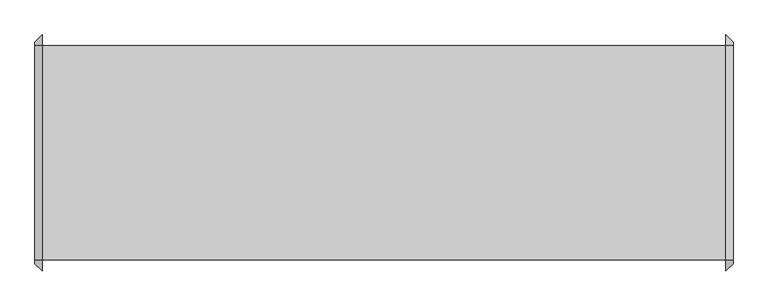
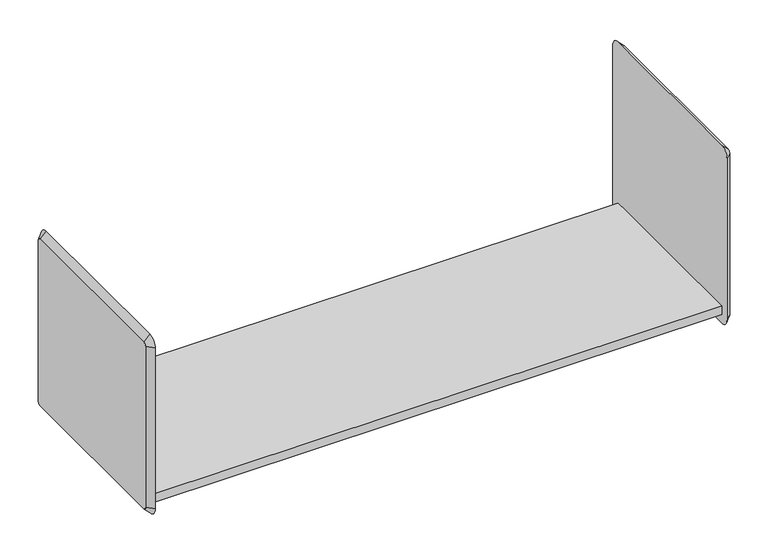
"""IFC4 building model written with IfcOpenShell, lengths in millimetres: furniture geometry, HermanMiller_ActionOffice_A3210_B-StyleShelf : 15-1/2H 16D 48W."""

from ifc_helpers import new_model, si_unit, frame, origin, place, context, project, spatial, polyline, circle_curve, outline, extrude, source, transform, mapped, element, save
from ifc_brep_helpers import plane_surface, revolved_surface, advanced_brep


def furniture_e0694ae7(model_context):
    return source(origin(), model_context, "Body", "SolidModel", [
        extrude(outline(polyline([(472.9579955, 200.025), (472.9579955, 196.85), (-720.8420045, 196.85), (-720.8420045, 200.025), (472.9579955, 200.025)])), frame((0.0, 0.0, 1686.3753713), z_axis=(0.0, 0.0, 1.0), x_axis=(1.0, 0.0, 0.0)), (0.0, 0.0, 1.0), 15.9097687),
        extrude(outline(polyline([(-174.625, 1705.46014), (200.025, 1705.46014), (200.025, 1702.28514), (-171.45, 1702.28514), (-171.45, 1686.3753713), (-174.625, 1686.3753713), (-174.625, 1705.46014)])), frame((-720.8420045, 0.0, 0.0), z_axis=(1.0, 0.0, 0.0), x_axis=(0.0, 1.0, 0.0)), (0.0, 0.0, 1.0), 1193.8),
        advanced_brep(
        [(485.6579955, 200.025, 2048.36014), (485.6579955, -174.625, 2048.36014), (485.6579955, -180.975, 2042.01014), (485.6579955, -180.975, 1686.41014), (485.6579955, -174.625, 1680.06014), (485.6579955, 200.025, 1680.06014), (485.6579955, 206.375, 1686.41014), (485.6579955, 206.375, 2042.01014), (472.9579955, 200.025, 2061.06014), (472.9579955, 219.075, 2042.01014), (472.9579955, 219.075, 1686.41014), (472.9579955, 200.025, 1667.36014), (472.9579955, -174.625, 1667.36014), (472.9579955, -193.675, 1686.41014), (472.9579955, -193.675, 2042.01014), (472.9579955, -174.625, 2061.06014)],
        [
            (0, 1),
            (1, 2, circle_curve(frame((485.6579955, -174.625, 2042.01014), z_axis=(1.0, 0.0, 0.0), x_axis=(0.0, 0.0, 1.0)), 6.35)),
            (2, 3),
            (3, 4, circle_curve(frame((485.6579955, -174.625, 1686.41014), z_axis=(1.0, 0.0, 0.0), x_axis=(0.0, -1.0, 0.0)), 6.35)),
            (4, 5),
            (5, 6, circle_curve(frame((485.6579955, 200.025, 1686.41014), z_axis=(1.0, 0.0, 0.0), x_axis=(0.0, 0.0, -1.0)), 6.35)),
            (6, 7),
            (7, 0, circle_curve(frame((485.6579955, 200.025, 2042.01014), z_axis=(1.0, 0.0, 0.0), x_axis=(0.0, 1.0, 0.0)), 6.35)),
            (8, 9, circle_curve(frame((472.9579955, 200.025, 2042.01014), z_axis=(-1.0, 0.0, 0.0), x_axis=(0.0, 1.0, 0.0)), 19.05)),
            (9, 10),
            (10, 11, circle_curve(frame((472.9579955, 200.025, 1686.41014), z_axis=(-1.0, 0.0, 0.0), x_axis=(0.0, 0.0, -1.0)), 19.05)),
            (11, 12),
            (12, 13, circle_curve(frame((472.9579955, -174.625, 1686.41014), z_axis=(-1.0, 0.0, 0.0), x_axis=(0.0, -1.0, 0.0)), 19.05)),
            (13, 14),
            (14, 15, circle_curve(frame((472.9579955, -174.625, 2042.01014), z_axis=(-1.0, 0.0, 0.0), x_axis=(0.0, 0.0, 1.0)), 19.05)),
            (15, 8),
            (15, 1),
            (0, 8),
            (14, 2),
            (13, 3),
            (12, 4),
            (11, 5),
            (10, 6),
            (9, 7),
        ],
        [
            plane_surface(frame((485.6579955, 12.7, 1864.21014), z_axis=(1.0, 0.0, 0.0), x_axis=(0.0, -1.0, 0.0))),
            plane_surface(frame((472.9579955, 12.7, 1864.21014), z_axis=(-1.0, 0.0, 0.0), x_axis=(0.0, -1.0, 0.0))),
            plane_surface(frame((472.9579955, 12.7, 2061.06014), z_axis=(0.7071067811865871, 0.0, 0.707106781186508), x_axis=(0.0, -1.0, 0.0))),
            revolved_surface(polyline([(485.6579955, -174.625, 2048.3601400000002), (472.9579955, -174.625, 2061.06014)]), (492.0079955, -174.625, 2042.01014), (-1.0, 0.0, 0.0)),
            plane_surface(frame((472.9579955, -193.675, 1864.21014), z_axis=(0.7071067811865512, -0.7071067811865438, 0.0), x_axis=(0.0, 0.0, -1.0))),
            revolved_surface(polyline([(485.6579955, -180.97499999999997, 1686.41014), (472.9579955, -193.675, 1686.41014)]), (492.0079955, -174.625, 1686.41014), (-1.0, 0.0, 0.0)),
            plane_surface(frame((472.9579955, 12.7, 1667.36014), z_axis=(0.7071067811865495, 0.0, -0.7071067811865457), x_axis=(0.0, 1.0, 0.0))),
            revolved_surface(polyline([(485.6579955, 200.025, 1680.06014), (472.9579955, 200.025, 1667.36014)]), (492.0079955, 200.025, 1686.41014), (-1.0, 0.0, 0.0)),
            plane_surface(frame((472.9579955, 219.075, 1864.21014), z_axis=(0.7071067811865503, 0.7071067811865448, 0.0), x_axis=(0.0, 0.0, 1.0))),
            revolved_surface(polyline([(485.6579955, 206.37499999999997, 2042.01014), (472.9579955, 219.075, 2042.01014)]), (492.0079955, 200.025, 2042.01014), (-1.0, 0.0, 0.0)),
        ],
        [
            (0, [[1, 2, 3, 4, 5, 6, 7, 8]]),
            (1, [[9, 10, 11, 12, 13, 14, 15, 16]]),
            (2, [[-16, 17, -1, 18]]),
            (3, [[-15, 19, -2, -17]]),
            (4, [[-14, 20, -3, -19]]),
            (5, [[-13, 21, -4, -20]]),
            (6, [[-12, 22, -5, -21]]),
            (7, [[-11, 23, -6, -22]]),
            (8, [[-10, 24, -7, -23]]),
            (9, [[-9, -18, -8, -24]]),
        ],
    ),
        advanced_brep(
        [(-733.5420045, -174.625, 2048.36014), (-733.5420045, 200.025, 2048.36014), (-733.5420045, 206.375, 2042.01014), (-733.5420045, 206.375, 1686.41014), (-733.5420045, 200.025, 1680.06014), (-733.5420045, -174.625, 1680.06014), (-733.5420045, -180.975, 1686.41014), (-733.5420045, -180.975, 2042.01014), (-720.8420045, -174.625, 2061.06014), (-720.8420045, -193.675, 2042.01014), (-720.8420045, -193.675, 1686.41014), (-720.8420045, -174.625, 1667.36014), (-720.8420045, 200.025, 1667.36014), (-720.8420045, 219.075, 1686.41014), (-720.8420045, 219.075, 2042.01014), (-720.8420045, 200.025, 2061.06014)],
        [
            (0, 1),
            (1, 2, circle_curve(frame((-733.5420045, 200.025, 2042.01014), z_axis=(-1.0, -1.8838264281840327e-12, -1.8118839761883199e-12), x_axis=(-1.811886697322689e-12, 0.0, 1.0)), 6.35)),
            (2, 3),
            (3, 4, circle_curve(frame((-733.5420045, 200.025, 1686.41014), z_axis=(-1.0, 0.0, 0.0), x_axis=(0.0, 1.0, 0.0)), 6.35)),
            (4, 5),
            (5, 6, circle_curve(frame((-733.5420045, -174.625, 1686.41014), z_axis=(-1.0, 0.0, 0.0), x_axis=(0.0, 0.0, -1.0)), 6.35)),
            (6, 7),
            (7, 0, circle_curve(frame((-733.5420045, -174.625, 2042.01014), z_axis=(-1.0, -1.875832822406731e-12, 1.9610979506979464e-12), x_axis=(1.875789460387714e-12, -1.0, 0.0)), 6.35)),
            (8, 9, circle_curve(frame((-720.8420045, -174.625, 2042.01014), z_axis=(1.0, 1.875832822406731e-12, -1.9610979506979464e-12), x_axis=(1.875789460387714e-12, -1.0, 0.0)), 19.05)),
            (9, 10),
            (10, 11, circle_curve(frame((-720.8420045, -174.625, 1686.41014), z_axis=(1.0, 0.0, 0.0), x_axis=(0.0, 0.0, -1.0)), 19.05)),
            (11, 12),
            (12, 13, circle_curve(frame((-720.8420045, 200.025, 1686.41014), z_axis=(1.0, 0.0, 0.0), x_axis=(0.0, 1.0, 0.0)), 19.05)),
            (13, 14),
            (14, 15, circle_curve(frame((-720.8420045, 200.025, 2042.01014), z_axis=(1.0, 1.8838264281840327e-12, 1.8118839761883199e-12), x_axis=(-1.811886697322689e-12, 0.0, 1.0)), 19.05)),
            (15, 8),
            (15, 1),
            (0, 8),
            (14, 2),
            (13, 3),
            (12, 4),
            (11, 5),
            (10, 6),
            (9, 7),
        ],
        [
            plane_surface(frame((-733.5420045, 12.7, 1864.21014), z_axis=(-1.0, 0.0, 0.0), x_axis=(0.0, -1.0, 0.0))),
            plane_surface(frame((-720.8420045, 12.7, 1864.21014), z_axis=(1.0, 0.0, 0.0), x_axis=(0.0, -1.0, 0.0))),
            plane_surface(frame((-720.8420045, 12.7, 2061.06014), z_axis=(-0.7071067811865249, 0.0, 0.7071067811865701), x_axis=(0.0, 1.0, 0.0))),
            revolved_surface(polyline([(-733.5420045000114, 200.025, 2048.3601399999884), (-720.8420044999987, 200.025, 2061.0601400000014)]), (-739.8920045, 200.025, 2042.01014), (1.0, 1.8838264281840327e-12, 1.8118839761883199e-12)),
            plane_surface(frame((-720.8420045, 219.075, 1864.21014), z_axis=(-0.7071067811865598, 0.7071067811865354, 0.0), x_axis=(0.0, 0.0, -1.0))),
            revolved_surface(polyline([(-733.5420045, 206.37500000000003, 1686.41014), (-720.8420045, 219.075, 1686.41014)]), (-739.8920045, 200.025, 1686.41014), (1.0, 0.0, 0.0)),
            plane_surface(frame((-720.8420045, 12.7, 1667.36014), z_axis=(-0.7071067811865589, 0.0, -0.7071067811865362), x_axis=(0.0, -1.0, 0.0))),
            revolved_surface(polyline([(-733.5420045, -174.625, 1680.06014), (-720.8420045, -174.625, 1667.36014)]), (-739.8920045, -174.625, 1686.41014), (1.0, 0.0, 0.0)),
            plane_surface(frame((-720.8420045, -193.675, 1864.21014), z_axis=(-0.7071067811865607, -0.7071067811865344, 0.0), x_axis=(0.0, 0.0, 1.0))),
            revolved_surface(polyline([(-733.5420045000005, -180.9749999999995, 2042.01014), (-720.8420044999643, -193.67500000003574, 2042.01014)]), (-739.8920045, -174.625, 2042.01014), (1.0, 1.875832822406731e-12, -1.9610979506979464e-12)),
        ],
        [
            (0, [[1, 2, 3, 4, 5, 6, 7, 8]]),
            (1, [[9, 10, 11, 12, 13, 14, 15, 16]]),
            (2, [[-16, 17, -1, 18]]),
            (3, [[-15, 19, -2, -17]]),
            (4, [[-14, 20, -3, -19]]),
            (5, [[-13, 21, -4, -20]]),
            (6, [[-12, 22, -5, -21]]),
            (7, [[-11, 23, -6, -22]]),
            (8, [[-10, 24, -7, -23]]),
            (9, [[-9, -18, -8, -24]]),
        ],
    ),
    ])


if __name__ == "__main__":
    model = new_model("IFC4")
    model_context = context("Model", 3, world=origin())
    ifc_project = project(units=[si_unit("LENGTHUNIT", "METRE", prefix="MILLI")], contexts=[model_context])
    site = spatial("IfcSite", under=ifc_project)
    building = spatial("IfcBuilding", under=site)
    placement = place(None, origin())
    furniture_shape = furniture_e0694ae7(model_context)
    element("IfcFurniture", 1, ObjectType="HermanMiller_ActionOffice_A3210_B-StyleShelf : 15-1/2H 16D 48W", at=placement, inside=building, context=model_context, shape_type="MappedRepresentation", body=[
        mapped(furniture_shape, transform((0.0, 0.0, 0.0), x_axis=(1.0, 0.0, 0.0), y_axis=(0.0, 1.0, 0.0), z_axis=(0.0, 0.0, 1.0))),
    ])
    save(model, "model.ifc")
